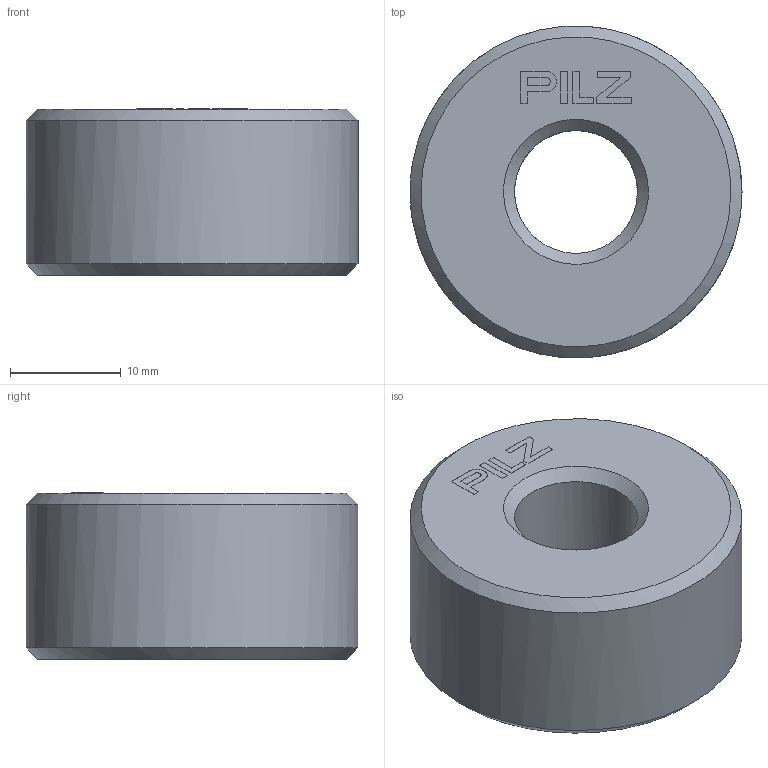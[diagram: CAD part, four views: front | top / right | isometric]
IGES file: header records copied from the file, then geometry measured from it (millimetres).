
Global section: file name: 2037422_B_Adapter_M30_M12; native system: Autodesk Inventor 2024; preprocessor: unknown; author: jebe; date: 20250224.121642; units: millimetre
Bounding box: 30 x 29.97 x 15.01 mm (x, y, z)
Volume: 9026.4 mm3; surface area: 3007.4 mm2
Topology: 1 solids, 1 shells, 43 faces, 107 edges, 71 vertices
Faces by surface type: bspline 43
